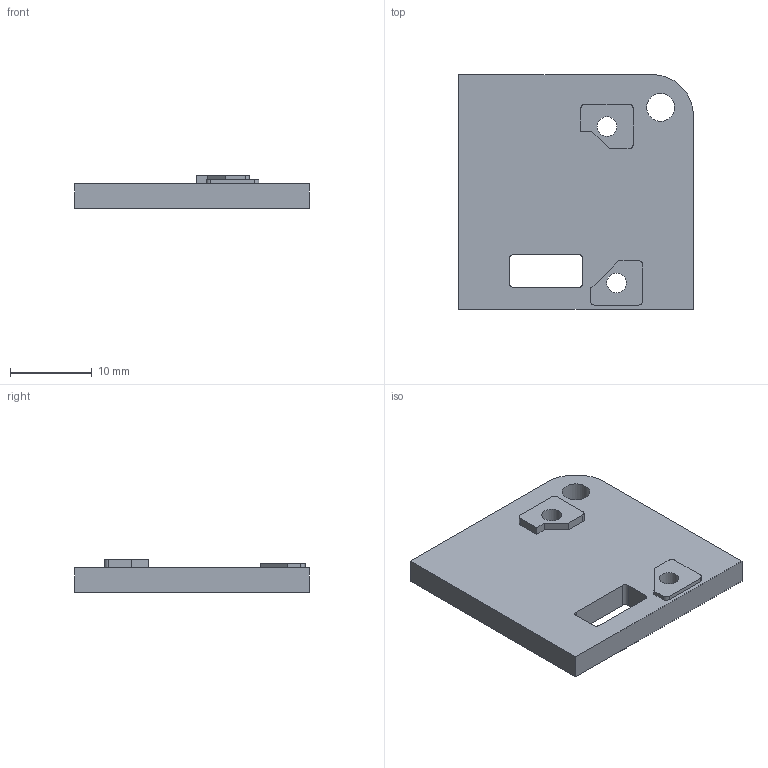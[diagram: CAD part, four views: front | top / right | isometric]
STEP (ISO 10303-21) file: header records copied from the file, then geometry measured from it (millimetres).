
FILE_DESCRIPTION(('Open CASCADE Model'),'2;1');
FILE_NAME('Open CASCADE Shape Model','2026-09-14T20:18:48',('Author'),( 'Open CASCADE'),'Open CASCADE STEP processor 7.9','Open CASCADE 7.9' ,'Unknown');
FILE_SCHEMA(('AUTOMOTIVE_DESIGN { 1 0 10303 214 1 1 1 1 }'));
Length unit declared in the file: millimetre
Products named in the file (1): Open CASCADE STEP translator 7.9 1
Bounding box: 28.7 x 28.7 x 4 mm (x, y, z)
Volume: 2330 mm3; surface area: 2063 mm2
Topology: 1 solids, 1 shells, 38 faces, 102 edges, 68 vertices
Faces by surface type: plane 24, cylinder 14
Full cylindrical faces by diameter (mm): 2.4 x2, 3.4 x1
Entity records: 2558 total; most frequent: CARTESIAN_POINT 509, DIRECTION 376, LINE 226, VECTOR 226, ORIENTED_EDGE 204, PCURVE 204, DEFINITIONAL_REPRESENTATION 204, EDGE_CURVE 102
